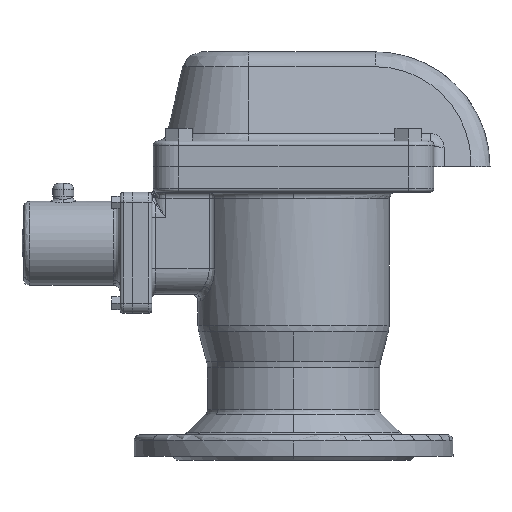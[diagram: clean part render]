
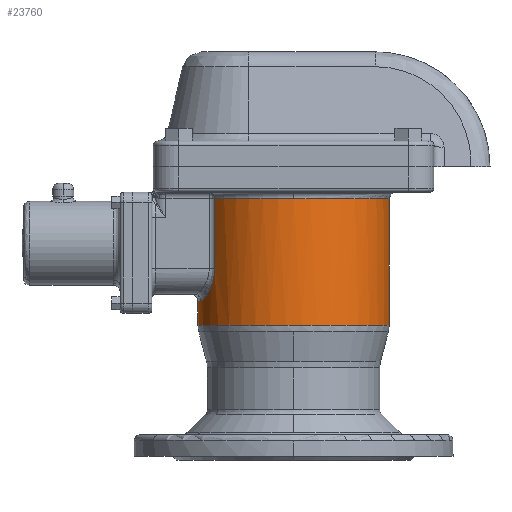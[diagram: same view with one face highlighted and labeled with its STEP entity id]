
A CAD part, left-side view. The second image highlights one B-rep face of the part: STEP entity #23760.
In plain terms, the highlighted cylindrical face has radius 75 mm (diameter 150 mm), a partial arc.
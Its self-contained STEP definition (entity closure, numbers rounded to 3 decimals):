
#473 = DIRECTION ( 'NONE',  ( 0., 0., 1. ) ) ;
#569 = ORIENTED_EDGE ( 'NONE', *, *, #23374, .F. ) ;
#1466 = AXIS2_PLACEMENT_3D ( 'NONE', #23058, #10562, #4217 ) ;
#1537 = VECTOR ( 'NONE', #16056, 1000. ) ;
#1614 = CARTESIAN_POINT ( 'NONE',  ( -37.777, 64.802, 135.287 ) ) ;
#1720 = AXIS2_PLACEMENT_3D ( 'NONE', #13040, #473, #15141 ) ;
#1823 = CARTESIAN_POINT ( 'NONE',  ( 0., -75., 205. ) ) ;
#1962 = DIRECTION ( 'NONE',  ( 0., 0., 1. ) ) ;
#2200 = CARTESIAN_POINT ( 'NONE',  ( -35.957, 65.819, 133.026 ) ) ;
#3096 = CARTESIAN_POINT ( 'NONE',  ( 0., 75., 105.623 ) ) ;
#3186 = CARTESIAN_POINT ( 'NONE',  ( -23.724, 71.179, 125.476 ) ) ;
#3525 = VERTEX_POINT ( 'NONE', #6443 ) ;
#3604 = CYLINDRICAL_SURFACE ( 'NONE', #1466, 75. ) ;
#3738 = CARTESIAN_POINT ( 'NONE',  ( -40.296, 63.272, 139.725 ) ) ;
#4064 = DIRECTION ( 'NONE',  ( 0., 0., 1. ) ) ;
#4217 = DIRECTION ( 'NONE',  ( 0., -1., 0. ) ) ;
#4226 = EDGE_LOOP ( 'NONE', ( #19465, #17188, #7381, #20238, #569, #20585, #10770, #15071, #10183, #5942 ) ) ;
#4435 = CARTESIAN_POINT ( 'NONE',  ( 0., -75., 105.623 ) ) ;
#5288 = CARTESIAN_POINT ( 'NONE',  ( -30.926, 68.377, 128.442 ) ) ;
#5627 = CARTESIAN_POINT ( 'NONE',  ( -42.187, 62.01, 155.312 ) ) ;
#5837 = CARTESIAN_POINT ( 'NONE',  ( -41.949, 62.172, 145.483 ) ) ;
#5942 = ORIENTED_EDGE ( 'NONE', *, *, #13892, .F. ) ;
#5996 = VERTEX_POINT ( 'NONE', #15645 ) ;
#6443 = CARTESIAN_POINT ( 'NONE',  ( -42.187, 62.01, 205. ) ) ;
#6698 = VERTEX_POINT ( 'NONE', #9059 ) ;
#7319 = CARTESIAN_POINT ( 'NONE',  ( -18.75, 72.618, 125. ) ) ;
#7381 = ORIENTED_EDGE ( 'NONE', *, *, #25677, .F. ) ;
#7408 = CARTESIAN_POINT ( 'NONE',  ( -34.458, 66.638, 131.296 ) ) ;
#7409 = VECTOR ( 'NONE', #4064, 1000. ) ;
#7958 = CARTESIAN_POINT ( 'NONE',  ( -42.188, 62.01, 150. ) ) ;
#8210 = CIRCLE ( 'NONE', #23511, 75. ) ;
#9059 = CARTESIAN_POINT ( 'NONE',  ( -75., 0., 205. ) ) ;
#9220 = AXIS2_PLACEMENT_3D ( 'NONE', #22471, #9988, #24560 ) ;
#9543 = CARTESIAN_POINT ( 'NONE',  ( 0., 0., 205. ) ) ;
#9988 = DIRECTION ( 'NONE',  ( 0., 0., -1. ) ) ;
#10183 = ORIENTED_EDGE ( 'NONE', *, *, #12331, .F. ) ;
#10562 = DIRECTION ( 'NONE',  ( 0., 0., 1. ) ) ;
#10770 = ORIENTED_EDGE ( 'NONE', *, *, #13011, .F. ) ;
#10888 = EDGE_CURVE ( 'NONE', #15329, #19172, #24063, .T. ) ;
#11177 = DIRECTION ( 'NONE',  ( 0., 0., -1. ) ) ;
#11651 = DIRECTION ( 'NONE',  ( 1., 0., 0. ) ) ;
#12083 = CARTESIAN_POINT ( 'NONE',  ( -35.957, 65.819, 133.026 ) ) ;
#12331 = EDGE_CURVE ( 'NONE', #21702, #15617, #22828, .T. ) ;
#13011 = EDGE_CURVE ( 'NONE', #5996, #3525, #23125, .T. ) ;
#13040 = CARTESIAN_POINT ( 'NONE',  ( 0., 0., 125. ) ) ;
#13161 = CARTESIAN_POINT ( 'NONE',  ( 0., 75., 125. ) ) ;
#13892 = EDGE_CURVE ( 'NONE', #26310, #21702, #13981, .T. ) ;
#13981 = CIRCLE ( 'NONE', #1720, 75. ) ;
#14518 = CARTESIAN_POINT ( 'NONE',  ( 0., 0., 205. ) ) ;
#15071 = ORIENTED_EDGE ( 'NONE', *, *, #24509, .F. ) ;
#15141 = DIRECTION ( 'NONE',  ( 1., 0., 0. ) ) ;
#15329 = VERTEX_POINT ( 'NONE', #4435 ) ;
#15461 = VERTEX_POINT ( 'NONE', #26959 ) ;
#15617 = VERTEX_POINT ( 'NONE', #2200 ) ;
#15629 = DIRECTION ( 'NONE',  ( 0., 0., 1. ) ) ;
#15645 = CARTESIAN_POINT ( 'NONE',  ( -42.188, 62.01, 150. ) ) ;
#15733 = CARTESIAN_POINT ( 'NONE',  ( -22.095, 71.703, 125.161 ) ) ;
#15752 = CIRCLE ( 'NONE', #19550, 75. ) ;
#16056 = DIRECTION ( 'NONE',  ( 0., 0., 1. ) ) ;
#16282 = CARTESIAN_POINT ( 'NONE',  ( -38.571, 64.33, 136.531 ) ) ;
#16618 = CARTESIAN_POINT ( 'NONE',  ( 0., -75., 105.623 ) ) ;
#16625 = DIRECTION ( 'NONE',  ( 1., 0., 0. ) ) ;
#17140 = EDGE_CURVE ( 'NONE', #22808, #26310, #25946, .T. ) ;
#17188 = ORIENTED_EDGE ( 'NONE', *, *, #26004, .F. ) ;
#17846 = CARTESIAN_POINT ( 'NONE',  ( -27.5, 69.846, 126.574 ) ) ;
#18385 = CARTESIAN_POINT ( 'NONE',  ( -41.47, 62.498, 143.284 ) ) ;
#18637 = CARTESIAN_POINT ( 'NONE',  ( 0., 75., 105.623 ) ) ;
#18654 = B_SPLINE_CURVE_WITH_KNOTS ( 'NONE', 5,
 ( #12083, #26655, #1614, #16282, #3738, #18385, #5837, #20485, #7958 ),
 .UNSPECIFIED., .F., .F.,
 ( 6, 3, 6 ),
 ( 0., 0.411, 1. ),
 .UNSPECIFIED. ) ;
#19172 = VERTEX_POINT ( 'NONE', #1823 ) ;
#19465 = ORIENTED_EDGE ( 'NONE', *, *, #17140, .F. ) ;
#19550 = AXIS2_PLACEMENT_3D ( 'NONE', #23668, #11177, #25753 ) ;
#19885 = CARTESIAN_POINT ( 'NONE',  ( -18.75, 72.618, 125. ) ) ;
#19939 = CARTESIAN_POINT ( 'NONE',  ( -32.774, 67.502, 129.763 ) ) ;
#20238 = ORIENTED_EDGE ( 'NONE', *, *, #10888, .T. ) ;
#20433 = VECTOR ( 'NONE', #15629, 1000. ) ;
#20485 = CARTESIAN_POINT ( 'NONE',  ( -42.187, 62.01, 147.742 ) ) ;
#20585 = ORIENTED_EDGE ( 'NONE', *, *, #21496, .F. ) ;
#20947 = FACE_OUTER_BOUND ( 'NONE', #4226, .T. ) ;
#21496 = EDGE_CURVE ( 'NONE', #3525, #6698, #23601, .T. ) ;
#21702 = VERTEX_POINT ( 'NONE', #19885 ) ;
#22031 = CARTESIAN_POINT ( 'NONE',  ( -35.957, 65.819, 133.026 ) ) ;
#22471 = CARTESIAN_POINT ( 'NONE',  ( 0., 0., 105.623 ) ) ;
#22804 = AXIS2_PLACEMENT_3D ( 'NONE', #14518, #1962, #16625 ) ;
#22808 = VERTEX_POINT ( 'NONE', #18637 ) ;
#22828 = B_SPLINE_CURVE_WITH_KNOTS ( 'NONE', 5,
 ( #7319, #24022, #15733, #3186, #17846, #5288, #19939, #7408, #22031 ),
 .UNSPECIFIED., .F., .F.,
 ( 6, 3, 6 ),
 ( 0., 0.418, 1. ),
 .UNSPECIFIED. ) ;
#23058 = CARTESIAN_POINT ( 'NONE',  ( 0., 0., 105.623 ) ) ;
#23125 = LINE ( 'NONE', #5627, #1537 ) ;
#23374 = EDGE_CURVE ( 'NONE', #6698, #19172, #8210, .T. ) ;
#23511 = AXIS2_PLACEMENT_3D ( 'NONE', #9543, #24121, #11651 ) ;
#23567 = CIRCLE ( 'NONE', #9220, 75. ) ;
#23601 = CIRCLE ( 'NONE', #22804, 75. ) ;
#23668 = CARTESIAN_POINT ( 'NONE',  ( 0., 0., 105.623 ) ) ;
#23760 = ADVANCED_FACE ( 'NONE', ( #20947 ), #3604, .T. ) ;
#24022 = CARTESIAN_POINT ( 'NONE',  ( -20.43, 72.185, 125. ) ) ;
#24063 = LINE ( 'NONE', #16618, #7409 ) ;
#24121 = DIRECTION ( 'NONE',  ( 0., 0., 1. ) ) ;
#24509 = EDGE_CURVE ( 'NONE', #15617, #5996, #18654, .T. ) ;
#24560 = DIRECTION ( 'NONE',  ( 1., 0., 0. ) ) ;
#25677 = EDGE_CURVE ( 'NONE', #15329, #15461, #15752, .T. ) ;
#25753 = DIRECTION ( 'NONE',  ( 1., 0., 0. ) ) ;
#25946 = LINE ( 'NONE', #3096, #20433 ) ;
#26004 = EDGE_CURVE ( 'NONE', #15461, #22808, #23567, .T. ) ;
#26310 = VERTEX_POINT ( 'NONE', #13161 ) ;
#26655 = CARTESIAN_POINT ( 'NONE',  ( -36.903, 65.302, 134.117 ) ) ;
#26959 = CARTESIAN_POINT ( 'NONE',  ( -35.957, 65.819, 105.623 ) ) ;
